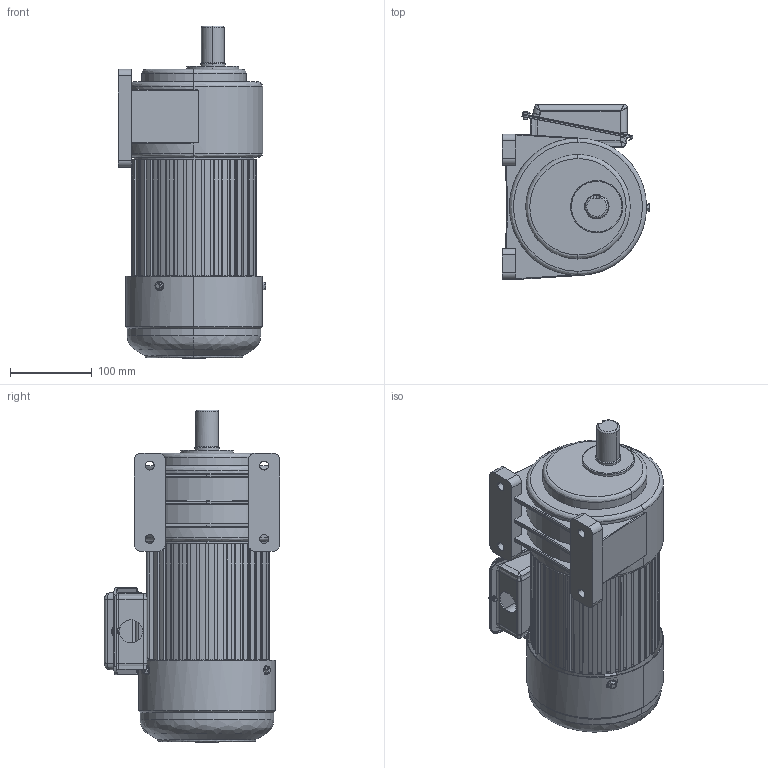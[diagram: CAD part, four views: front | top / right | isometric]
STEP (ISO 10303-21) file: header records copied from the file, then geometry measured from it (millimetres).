
FILE_DESCRIPTION (( 'STEP AP203' ), '1' );
FILE_NAME ('单相750W3#卧式.STEP', '2018-08-20T11:26:57', ( '微软中国' ), ( '微软用户' ), 'SwSTEP 2.0', 'SolidWorks 2012', '' );
FILE_SCHEMA (( 'CONFIG_CONTROL_DESIGN' ));
Products named in the file (11): Cross recessed pan head screws GB_GB_CROSS_SCREWS_TYPE1 M5X6-6  H type-N; 等眈諉盄碟釱; 等眈諉盄碟裔; 等眈 瑞欶400W; 棠憤迖殤400W; hex flange bolts-heavy grade b gb_GB_FASTENER_BOLT_HFBB M5X10-N; 3#拏宒熬厒ん; 等眈750W3#拏宒; 等眈750W; 750W儂褲; 等眈諉盄碟窒璃
Assembly tree (12 placements, depth 4):
  等眈750W3#拏宒
    3#拏宒熬厒ん
    等眈750W
      hex flange bolts-heavy grade b gb_GB_FASTENER_BOLT_HFBB M5X10-N  x3
      棠憤迖殤400W
      等眈 瑞欶400W
      等眈諉盄碟窒璃
        等眈諉盄碟裔
        等眈諉盄碟釱
        Cross recessed pan head screws GB_GB_CROSS_SCREWS_TYPE1 M5X6-6  H type-N
      750W儂褲
Bounding box: 181.17 x 214.59 x 406.5 mm (x, y, z)
Volume: 3286546.3 mm3; surface area: 664724.6 mm2
Topology: 10 solids, 10 shells, 1296 faces, 3592 edges, 2334 vertices
Faces by surface type: plane 702, cylinder 424, bspline 76, torus 74, cone 18, sphere 2
Entity records: 44467 total; most frequent: CARTESIAN_POINT 10886, ORIENTED_EDGE 6952, DIRECTION 6445, EDGE_CURVE 3476, VERTEX_POINT 2274, VECTOR 2233, LINE 2233, AXIS2_PLACEMENT_3D 2106
